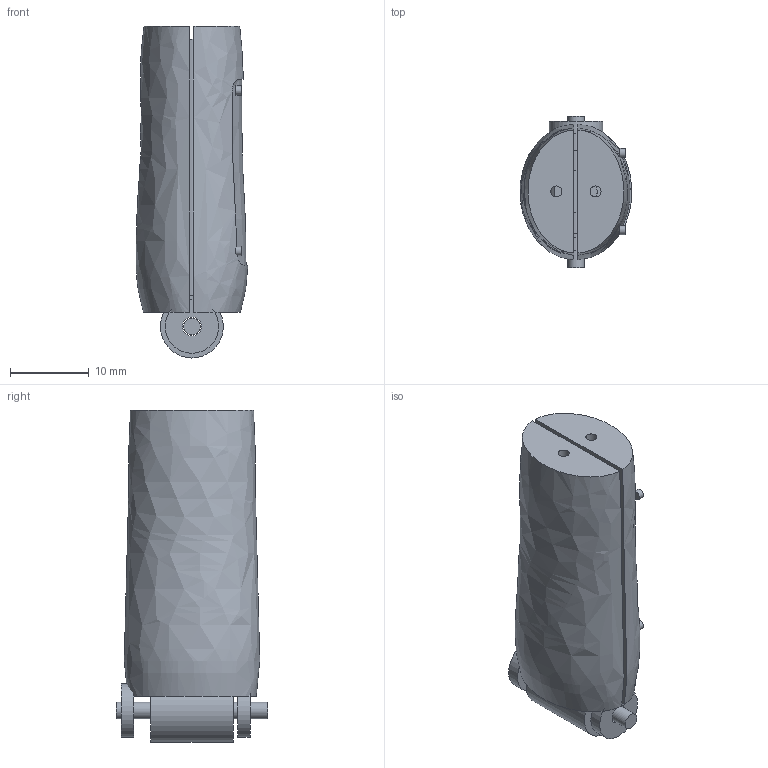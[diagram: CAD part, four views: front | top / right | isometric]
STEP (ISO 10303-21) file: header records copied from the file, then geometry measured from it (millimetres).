
FILE_DESCRIPTION(('FreeCAD Model'),'2;1');
FILE_NAME('Open CASCADE Shape Model','2026-10-05T09:22:57',('Author'),( ''),'Open CASCADE STEP processor 7.8','FreeCAD','Unknown');
FILE_SCHEMA(('AUTOMOTIVE_DESIGN { 1 0 10303 214 1 1 1 1 }'));
Length unit declared in the file: millimetre
Products named in the file (13): Export_ring_proximal; ring_proximalDorsalShell; ring_proximalFlexorShell; ring_proximalInsetPad; ring_proximalCore; ring_proximalHingeBarrel; ring_proximalCheek-1; ring_proximalCheek1; ring_proximalPin; ring_proximalScrew_-1_0.24; ring_proximalScrew_-1_0.75; ring_proximalScrew_1_0.24; ring_proximalScrew_1_0.75
Assembly tree (12 placements, depth 2):
  Export_ring_proximal
    ring_proximalDorsalShell
    ring_proximalFlexorShell
    ring_proximalInsetPad
    ring_proximalCore
    ring_proximalHingeBarrel
    ring_proximalCheek-1
    ring_proximalCheek1
    ring_proximalPin
    ring_proximalScrew_-1_0.24
    ring_proximalScrew_-1_0.75
    ring_proximalScrew_1_0.24
    ring_proximalScrew_1_0.75
Bounding box: 14.2 x 19.2 x 42.2 mm (x, y, z)
Volume: 7361 mm3; surface area: 5530.3 mm2
Topology: 12 solids, 12 shells, 83 faces, 150 edges, 90 vertices
Faces by surface type: plane 38, cylinder 34, sphere 8, bspline 3
Full cylindrical faces by diameter (mm): 0.464 x4, 1.16 x4, 1.4 x2, 2.1 x1, 2.4 x3, 5.4 x1, 6.8 x2, 8 x1
Entity records: 3090 total; most frequent: CARTESIAN_POINT 1302, DIRECTION 356, ORIENTED_EDGE 288, AXIS2_PLACEMENT_3D 153, EDGE_CURVE 144, FACE_BOUND 98, EDGE_LOOP 98, VERTEX_POINT 90
